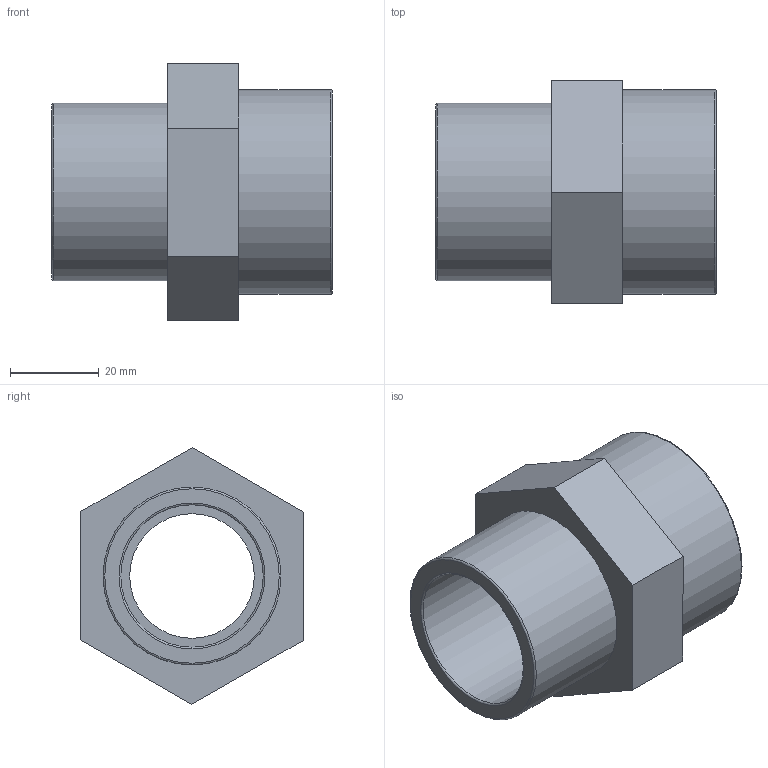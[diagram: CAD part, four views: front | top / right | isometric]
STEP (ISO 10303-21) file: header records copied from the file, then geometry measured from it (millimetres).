
FILE_DESCRIPTION(/* description */ ('PLASSON ADAPTOR SOCKET M.F. 40-1.1/4" CEM-THR'),/* implementation_level */ '2;1');
FILE_NAME(/* name */ 'C:\Dropbox\KIMPROJECTS-Inventor\99-16-3568-Processing\PVC Catalog 2017\050302\050302040013.ipt.stp',/* time_stamp */ '2017-12-07T15:54:02+02:00',/* author */ ('KIM'),/* organization */ (''),/* preprocessor_version */ 'ST-DEVELOPER v15.6',/* originating_system */ 'Autodesk Inventor 2015',/* authorisation */ '');
FILE_SCHEMA (('AUTOMOTIVE_DESIGN { 1 0 10303 214 3 1 1 }'));
Length unit declared in the file: millimetre
Products named in the file (1): 050302040013
Bounding box: 63 x 50.08 x 57.73 mm (x, y, z)
Volume: 44534.9 mm3; surface area: 18807.3 mm2
Topology: 1 solids, 1 shells, 21 faces, 41 edges, 26 vertices
Faces by surface type: plane 12, cylinder 5, torus 4
Full cylindrical faces by diameter (mm): 28 x1, 32 x1, 38.952 x1, 40 x1, 46 x1
Entity records: 520 total; most frequent: DIRECTION 90, CARTESIAN_POINT 80, ORIENTED_EDGE 64, EDGE_LOOP 36, AXIS2_PLACEMENT_3D 36, EDGE_CURVE 32, VERTEX_POINT 26, FACE_OUTER_BOUND 21
